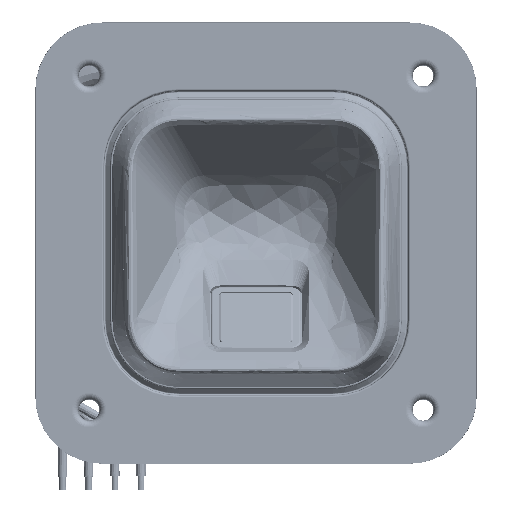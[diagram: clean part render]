
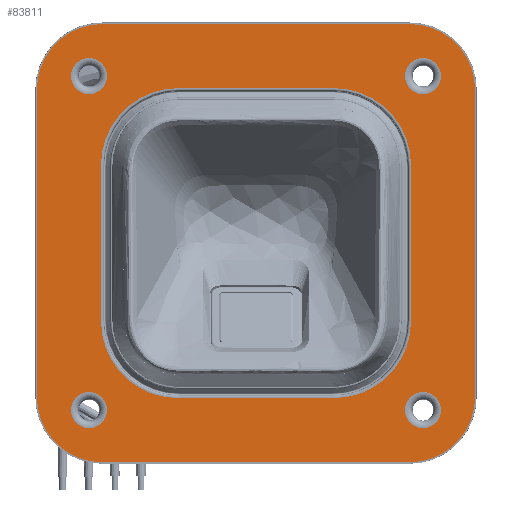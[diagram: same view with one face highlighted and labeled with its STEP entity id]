
A CAD part, front view. The second image highlights one B-rep face of the part: STEP entity #83811.
In plain terms, the highlighted planar face has unit normal (0, -1, 0) as drawn and (0, 1, 0) by its records, which use the part's own axes.
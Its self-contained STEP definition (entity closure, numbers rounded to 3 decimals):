
#7448=CIRCLE('',#94738,2.7);
#7450=CIRCLE('',#94741,2.7);
#7452=CIRCLE('',#94744,2.7);
#7454=CIRCLE('',#94747,2.7);
#7455=CIRCLE('',#94749,11.5);
#7457=CIRCLE('',#94752,11.5);
#7459=CIRCLE('',#94755,11.5);
#7461=CIRCLE('',#94758,11.5);
#7463=CIRCLE('',#94761,9.8);
#7465=CIRCLE('',#94764,9.8);
#7467=CIRCLE('',#94767,9.8);
#7469=CIRCLE('',#94770,9.8);
#28175=ORIENTED_EDGE('',*,*,#44370,.F.);
#28176=ORIENTED_EDGE('',*,*,#44346,.F.);
#28177=ORIENTED_EDGE('',*,*,#44371,.F.);
#28178=ORIENTED_EDGE('',*,*,#44350,.F.);
#28179=ORIENTED_EDGE('',*,*,#44372,.F.);
#28180=ORIENTED_EDGE('',*,*,#44354,.F.);
#28181=ORIENTED_EDGE('',*,*,#44373,.F.);
#28182=ORIENTED_EDGE('',*,*,#44358,.F.);
#28183=ORIENTED_EDGE('',*,*,#44374,.T.);
#28184=ORIENTED_EDGE('',*,*,#44330,.T.);
#28185=ORIENTED_EDGE('',*,*,#44375,.T.);
#28186=ORIENTED_EDGE('',*,*,#44342,.T.);
#28187=ORIENTED_EDGE('',*,*,#44376,.T.);
#28188=ORIENTED_EDGE('',*,*,#44338,.T.);
#28189=ORIENTED_EDGE('',*,*,#44377,.T.);
#28190=ORIENTED_EDGE('',*,*,#44334,.T.);
#28191=ORIENTED_EDGE('',*,*,#44329,.T.);
#28192=ORIENTED_EDGE('',*,*,#44327,.T.);
#28193=ORIENTED_EDGE('',*,*,#44325,.T.);
#28194=ORIENTED_EDGE('',*,*,#44323,.T.);
#44323=EDGE_CURVE('',#53412,#53412,#7448,.T.);
#44325=EDGE_CURVE('',#53414,#53414,#7450,.T.);
#44327=EDGE_CURVE('',#53416,#53416,#7452,.T.);
#44329=EDGE_CURVE('',#53418,#53418,#7454,.T.);
#44330=EDGE_CURVE('',#53419,#53420,#7455,.T.);
#44334=EDGE_CURVE('',#53423,#53424,#7457,.T.);
#44338=EDGE_CURVE('',#53427,#53428,#7459,.T.);
#44342=EDGE_CURVE('',#53431,#53432,#7461,.T.);
#44346=EDGE_CURVE('',#53435,#53436,#7463,.T.);
#44350=EDGE_CURVE('',#53439,#53440,#7465,.T.);
#44354=EDGE_CURVE('',#53443,#53444,#7467,.T.);
#44358=EDGE_CURVE('',#53447,#53448,#7469,.T.);
#44370=EDGE_CURVE('',#53436,#53447,#59846,.T.);
#44371=EDGE_CURVE('',#53440,#53435,#59847,.T.);
#44372=EDGE_CURVE('',#53444,#53439,#59848,.T.);
#44373=EDGE_CURVE('',#53448,#53443,#59849,.T.);
#44374=EDGE_CURVE('',#53424,#53419,#59850,.T.);
#44375=EDGE_CURVE('',#53420,#53431,#59851,.T.);
#44376=EDGE_CURVE('',#53432,#53427,#59852,.T.);
#44377=EDGE_CURVE('',#53428,#53423,#59853,.T.);
#53412=VERTEX_POINT('',#214665);
#53414=VERTEX_POINT('',#214670);
#53416=VERTEX_POINT('',#214675);
#53418=VERTEX_POINT('',#214680);
#53419=VERTEX_POINT('',#214683);
#53420=VERTEX_POINT('',#214684);
#53423=VERTEX_POINT('',#214692);
#53424=VERTEX_POINT('',#214693);
#53427=VERTEX_POINT('',#214701);
#53428=VERTEX_POINT('',#214702);
#53431=VERTEX_POINT('',#214710);
#53432=VERTEX_POINT('',#214711);
#53435=VERTEX_POINT('',#214719);
#53436=VERTEX_POINT('',#214720);
#53439=VERTEX_POINT('',#214728);
#53440=VERTEX_POINT('',#214729);
#53443=VERTEX_POINT('',#214737);
#53444=VERTEX_POINT('',#214738);
#53447=VERTEX_POINT('',#214746);
#53448=VERTEX_POINT('',#214747);
#59846=LINE('',#214763,#65698);
#59847=LINE('',#214764,#65699);
#59848=LINE('',#214765,#65700);
#59849=LINE('',#214766,#65701);
#59850=LINE('',#214767,#65702);
#59851=LINE('',#214768,#65703);
#59852=LINE('',#214769,#65704);
#59853=LINE('',#214770,#65705);
#65698=VECTOR('',#111141,1000.);
#65699=VECTOR('',#111142,1000.);
#65700=VECTOR('',#111143,1000.);
#65701=VECTOR('',#111144,1000.);
#65702=VECTOR('',#111145,1000.);
#65703=VECTOR('',#111146,1000.);
#65704=VECTOR('',#111147,1000.);
#65705=VECTOR('',#111148,1000.);
#71089=EDGE_LOOP('',(#28175,#28176,#28177,#28178,#28179,#28180,#28181,#28182));
#71090=EDGE_LOOP('',(#28183,#28184,#28185,#28186,#28187,#28188,#28189,#28190));
#71091=EDGE_LOOP('',(#28191));
#71092=EDGE_LOOP('',(#28192));
#71093=EDGE_LOOP('',(#28193));
#71094=EDGE_LOOP('',(#28194));
#76658=FACE_BOUND('',#71089,.T.);
#76659=FACE_BOUND('',#71090,.T.);
#76660=FACE_BOUND('',#71091,.T.);
#76661=FACE_BOUND('',#71092,.T.);
#76662=FACE_BOUND('',#71093,.T.);
#76663=FACE_BOUND('',#71094,.T.);
#79724=PLANE('',#94773);
#83811=ADVANCED_FACE('',(#76658,#76659,#76660,#76661,#76662,#76663),#79724,
 .F.);
#94738=AXIS2_PLACEMENT_3D('',#214664,#111045,#111046);
#94741=AXIS2_PLACEMENT_3D('',#214669,#111051,#111052);
#94744=AXIS2_PLACEMENT_3D('',#214674,#111057,#111058);
#94747=AXIS2_PLACEMENT_3D('',#214679,#111063,#111064);
#94749=AXIS2_PLACEMENT_3D('',#214682,#111067,#111068);
#94752=AXIS2_PLACEMENT_3D('',#214691,#111075,#111076);
#94755=AXIS2_PLACEMENT_3D('',#214700,#111083,#111084);
#94758=AXIS2_PLACEMENT_3D('',#214709,#111091,#111092);
#94761=AXIS2_PLACEMENT_3D('',#214718,#111099,#111100);
#94764=AXIS2_PLACEMENT_3D('',#214727,#111107,#111108);
#94767=AXIS2_PLACEMENT_3D('',#214736,#111115,#111116);
#94770=AXIS2_PLACEMENT_3D('',#214745,#111123,#111124);
#94773=AXIS2_PLACEMENT_3D('',#214762,#111139,#111140);
#111045=DIRECTION('',(0.,-1.,0.));
#111046=DIRECTION('',(0.,0.,-1.));
#111051=DIRECTION('',(0.,-1.,0.));
#111052=DIRECTION('',(0.,0.,-1.));
#111057=DIRECTION('',(0.,-1.,0.));
#111058=DIRECTION('',(0.,0.,-1.));
#111063=DIRECTION('',(0.,-1.,0.));
#111064=DIRECTION('',(0.,0.,-1.));
#111067=DIRECTION('',(0.,-1.,0.));
#111068=DIRECTION('',(0.,0.,-1.));
#111075=DIRECTION('',(0.,-1.,0.));
#111076=DIRECTION('',(0.,0.,-1.));
#111083=DIRECTION('',(0.,-1.,0.));
#111084=DIRECTION('',(0.,0.,-1.));
#111091=DIRECTION('',(0.,-1.,0.));
#111092=DIRECTION('',(0.,0.,-1.));
#111099=DIRECTION('',(0.,-1.,0.));
#111100=DIRECTION('',(0.,0.,-1.));
#111107=DIRECTION('',(0.,-1.,0.));
#111108=DIRECTION('',(0.,0.,-1.));
#111115=DIRECTION('',(0.,-1.,0.));
#111116=DIRECTION('',(0.,0.,-1.));
#111123=DIRECTION('',(0.,-1.,0.));
#111124=DIRECTION('',(0.,0.,-1.));
#111139=DIRECTION('',(0.,-1.,0.));
#111140=DIRECTION('',(0.,0.,-1.));
#111141=DIRECTION('',(-1.,0.,0.));
#111142=DIRECTION('',(0.,0.,1.));
#111143=DIRECTION('',(1.,0.,0.));
#111144=DIRECTION('',(0.,0.,-1.));
#111145=DIRECTION('',(0.,0.,1.));
#111146=DIRECTION('',(-1.,0.,0.));
#111147=DIRECTION('',(0.,0.,-1.));
#111148=DIRECTION('',(1.,0.,0.));
#214664=CARTESIAN_POINT('',(-25.,0.45,25.));
#214665=CARTESIAN_POINT('',(-25.,0.45,22.3));
#214669=CARTESIAN_POINT('',(-25.,0.45,-25.));
#214670=CARTESIAN_POINT('',(-25.,0.45,-27.7));
#214674=CARTESIAN_POINT('',(25.,0.45,-25.));
#214675=CARTESIAN_POINT('',(25.,0.45,-27.7));
#214679=CARTESIAN_POINT('',(25.,0.45,25.));
#214680=CARTESIAN_POINT('',(25.,0.45,22.3));
#214682=CARTESIAN_POINT('',(11.7,0.45,11.7));
#214683=CARTESIAN_POINT('',(23.2,0.45,11.7));
#214684=CARTESIAN_POINT('',(11.7,0.45,23.2));
#214691=CARTESIAN_POINT('',(11.7,0.45,-11.7));
#214692=CARTESIAN_POINT('',(11.7,0.45,-23.2));
#214693=CARTESIAN_POINT('',(23.2,0.45,-11.7));
#214700=CARTESIAN_POINT('',(-11.7,0.45,-11.7));
#214701=CARTESIAN_POINT('',(-23.2,0.45,-11.7));
#214702=CARTESIAN_POINT('',(-11.7,0.45,-23.2));
#214709=CARTESIAN_POINT('',(-11.7,0.45,11.7));
#214710=CARTESIAN_POINT('',(-11.7,0.45,23.2));
#214711=CARTESIAN_POINT('',(-23.2,0.45,11.7));
#214718=CARTESIAN_POINT('',(23.,0.45,23.));
#214719=CARTESIAN_POINT('',(32.8,0.45,23.));
#214720=CARTESIAN_POINT('',(23.,0.45,32.8));
#214727=CARTESIAN_POINT('',(23.,0.45,-23.));
#214728=CARTESIAN_POINT('',(23.,0.45,-32.8));
#214729=CARTESIAN_POINT('',(32.8,0.45,-23.));
#214736=CARTESIAN_POINT('',(-23.,0.45,-23.));
#214737=CARTESIAN_POINT('',(-32.8,0.45,-23.));
#214738=CARTESIAN_POINT('',(-23.,0.45,-32.8));
#214745=CARTESIAN_POINT('',(-23.,0.45,23.));
#214746=CARTESIAN_POINT('',(-23.,0.45,32.8));
#214747=CARTESIAN_POINT('',(-32.8,0.45,23.));
#214762=CARTESIAN_POINT('',(0.,0.45,0.));
#214763=CARTESIAN_POINT('',(32.8,0.45,32.8));
#214764=CARTESIAN_POINT('',(32.8,0.45,-32.8));
#214765=CARTESIAN_POINT('',(-32.8,0.45,-32.8));
#214766=CARTESIAN_POINT('',(-32.8,0.45,32.8));
#214767=CARTESIAN_POINT('',(23.2,0.45,-23.2));
#214768=CARTESIAN_POINT('',(23.2,0.45,23.2));
#214769=CARTESIAN_POINT('',(-23.2,0.45,23.2));
#214770=CARTESIAN_POINT('',(-23.2,0.45,-23.2));
